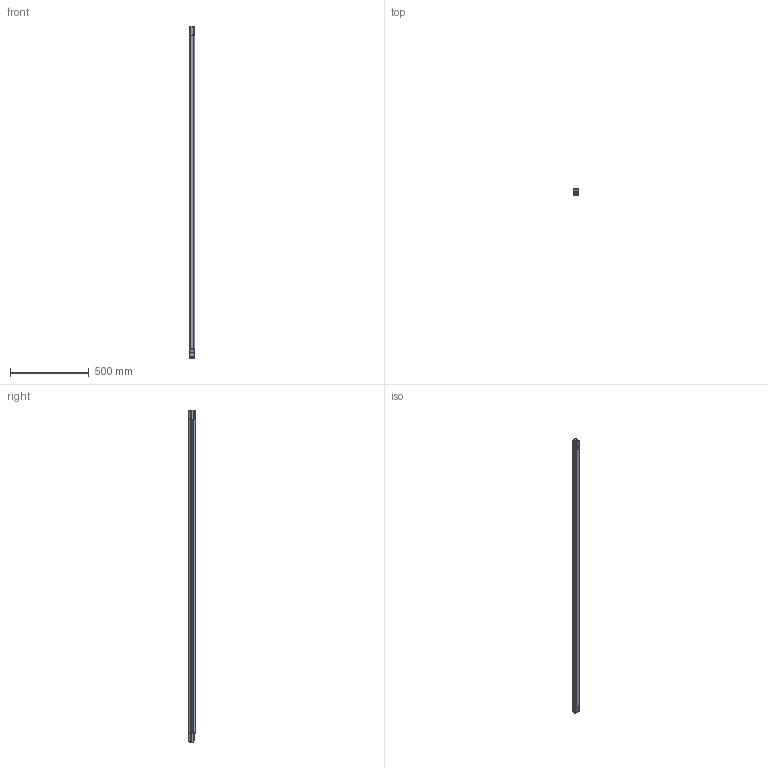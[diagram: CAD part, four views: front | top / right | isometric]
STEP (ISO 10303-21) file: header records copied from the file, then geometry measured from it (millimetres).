
FILE_DESCRIPTION(/* description */ (''),/* implementation_level */ '2;1');
FILE_NAME(/* name */ 'SH4 - 2100 mm DSD Barriera senza Smart Plug.stp',/* time_stamp */ '2022-12-02T18:39:10+01:00',/* author */ (''),/* organization */ (''),/* preprocessor_version */ 'ST-DEVELOPER v16.701',/* originating_system */ 'SIEMENS PLM Software NX 1946',/* authorisation */ '');
FILE_SCHEMA (('AP203_CONFIGURATION_CONTROLLED_3D_DESIGN_OF_MECHANICAL_PARTS_AND_ASSEMBLIES_MIM_LF { 1 0 10303 403 2 1 2}'));
Length unit declared in the file: millimetre
Products named in the file (1): MRos63D4F2E59x57
Bounding box: 35.08 x 40 x 2109 mm (x, y, z)
Volume: 2490894.9 mm3; surface area: 478186.9 mm2
Topology: 6 solids, 11 shells, 891 faces, 2428 edges, 1549 vertices
Faces by surface type: plane 363, cylinder 315, bspline 92, cone 55, extrusion 24, sphere 22, torus 20
Full cylindrical faces by diameter (mm): 2.013 x4, 2.2 x4, 3 x4, 4.37 x4, 5 x8
Entity records: 34734 total; most frequent: CARTESIAN_POINT 13104, ORIENTED_EDGE 4576, DIRECTION 3865, EDGE_CURVE 2288, VERTEX_POINT 1515, AXIS2_PLACEMENT_3D 1345, VECTOR 1175, LINE 1151
